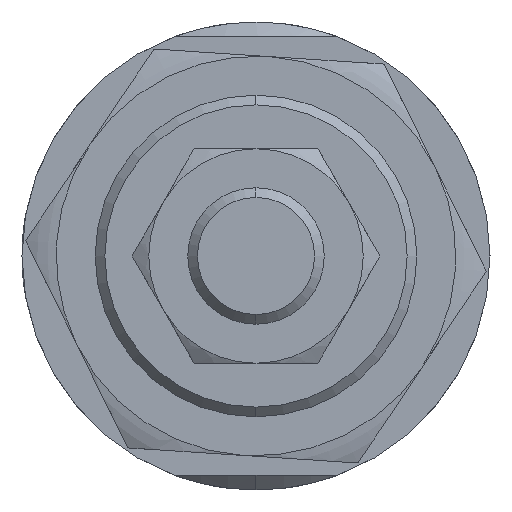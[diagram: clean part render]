
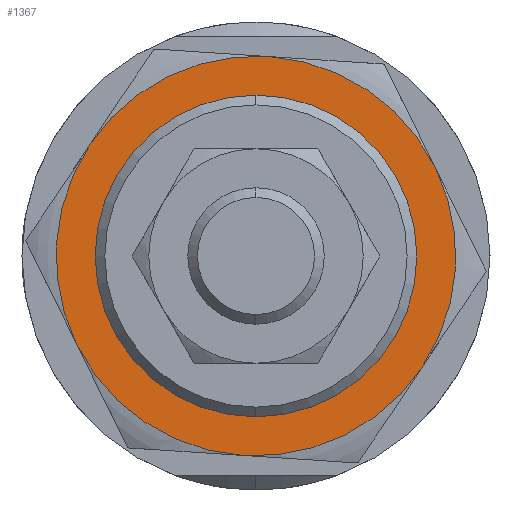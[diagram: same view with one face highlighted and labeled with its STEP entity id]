
A CAD part, left-side view. The second image highlights one B-rep face of the part: STEP entity #1367.
In plain terms, the highlighted planar face has unit normal (-1, 0, 0) as drawn and (0, 0, -1) by its records, which use the part's own axes.
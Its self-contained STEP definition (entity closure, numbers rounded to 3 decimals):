
#33 = DIRECTION ( 'NONE',  ( 1., 0., 0. ) ) ;
#50 = ORIENTED_EDGE ( 'NONE', *, *, #120, .F. ) ;
#102 = CARTESIAN_POINT ( 'NONE',  ( 10.25, -17.754, -5.5 ) ) ;
#120 = EDGE_CURVE ( 'NONE', #470, #3186, #2458, .T. ) ;
#123 = DIRECTION ( 'NONE',  ( 1., 0., 0. ) ) ;
#184 = ORIENTED_EDGE ( 'NONE', *, *, #2025, .F. ) ;
#196 = CARTESIAN_POINT ( 'NONE',  ( -10.25, -17.754, -5.5 ) ) ;
#205 = DIRECTION ( 'NONE',  ( 1., 0., 0. ) ) ;
#245 = CARTESIAN_POINT ( 'NONE',  ( 0., 0., -5.5 ) ) ;
#267 = DIRECTION ( 'NONE',  ( 0., 0., 1. ) ) ;
#316 = EDGE_CURVE ( 'NONE', #2252, #1985, #3172, .T. ) ;
#373 = EDGE_CURVE ( 'NONE', #970, #1316, #718, .T. ) ;
#378 = AXIS2_PLACEMENT_3D ( 'NONE', #2095, #1938, #123 ) ;
#390 = CARTESIAN_POINT ( 'NONE',  ( -15.5, 0., -5.5 ) ) ;
#467 = CARTESIAN_POINT ( 'NONE',  ( 20.5, 0., -5.5 ) ) ;
#470 = VERTEX_POINT ( 'NONE', #467 ) ;
#624 = ORIENTED_EDGE ( 'NONE', *, *, #373, .T. ) ;
#679 = EDGE_CURVE ( 'NONE', #2612, #1648, #2510, .T. ) ;
#718 = CIRCLE ( 'NONE', #1125, 15.5 ) ;
#749 = DIRECTION ( 'NONE',  ( 1., 0., 0. ) ) ;
#772 = CIRCLE ( 'NONE', #378, 20.5 ) ;
#780 = CIRCLE ( 'NONE', #1964, 15.5 ) ;
#789 = EDGE_CURVE ( 'NONE', #1985, #2612, #772, .T. ) ;
#967 = AXIS2_PLACEMENT_3D ( 'NONE', #1411, #2462, #1241 ) ;
#970 = VERTEX_POINT ( 'NONE', #2581 ) ;
#1072 = CARTESIAN_POINT ( 'NONE',  ( 0., 0., -5.5 ) ) ;
#1125 = AXIS2_PLACEMENT_3D ( 'NONE', #1072, #2579, #205 ) ;
#1171 = DIRECTION ( 'NONE',  ( 0., 0., 1. ) ) ;
#1241 = DIRECTION ( 'NONE',  ( 1., 0., 0. ) ) ;
#1270 = EDGE_LOOP ( 'NONE', ( #50, #2150, #2057, #1922, #1554, #184 ) ) ;
#1316 = VERTEX_POINT ( 'NONE', #390 ) ;
#1329 = AXIS2_PLACEMENT_3D ( 'NONE', #2272, #1171, #749 ) ;
#1352 = CIRCLE ( 'NONE', #1998, 20.5 ) ;
#1367 = ADVANCED_FACE ( 'NONE', ( #1668, #1992 ), #2397, .F. ) ;
#1411 = CARTESIAN_POINT ( 'NONE',  ( 0., 0., -5.5 ) ) ;
#1554 = ORIENTED_EDGE ( 'NONE', *, *, #316, .F. ) ;
#1648 = VERTEX_POINT ( 'NONE', #102 ) ;
#1668 = FACE_BOUND ( 'NONE', #2352, .T. ) ;
#1719 = DIRECTION ( 'NONE',  ( 1., 0., 0. ) ) ;
#1762 = CARTESIAN_POINT ( 'NONE',  ( -10.25, 17.754, -5.5 ) ) ;
#1914 = CARTESIAN_POINT ( 'NONE',  ( 0., 0., -5.5 ) ) ;
#1922 = ORIENTED_EDGE ( 'NONE', *, *, #789, .F. ) ;
#1938 = DIRECTION ( 'NONE',  ( 0., 0., 1. ) ) ;
#1964 = AXIS2_PLACEMENT_3D ( 'NONE', #1914, #267, #2473 ) ;
#1985 = VERTEX_POINT ( 'NONE', #3264 ) ;
#1992 = FACE_OUTER_BOUND ( 'NONE', #1270, .T. ) ;
#1998 = AXIS2_PLACEMENT_3D ( 'NONE', #245, #2901, #1719 ) ;
#2025 = EDGE_CURVE ( 'NONE', #3186, #2252, #1352, .T. ) ;
#2057 = ORIENTED_EDGE ( 'NONE', *, *, #679, .F. ) ;
#2095 = CARTESIAN_POINT ( 'NONE',  ( 0., 0., -5.5 ) ) ;
#2150 = ORIENTED_EDGE ( 'NONE', *, *, #2895, .F. ) ;
#2252 = VERTEX_POINT ( 'NONE', #1762 ) ;
#2272 = CARTESIAN_POINT ( 'NONE',  ( 0., 0., -5.5 ) ) ;
#2274 = CIRCLE ( 'NONE', #3199, 20.5 ) ;
#2352 = EDGE_LOOP ( 'NONE', ( #624, #2553 ) ) ;
#2397 = PLANE ( 'NONE',  #1329 ) ;
#2458 = CIRCLE ( 'NONE', #3308, 20.5 ) ;
#2462 = DIRECTION ( 'NONE',  ( 0., 0., 1. ) ) ;
#2473 = DIRECTION ( 'NONE',  ( 1., 0., 0. ) ) ;
#2510 = CIRCLE ( 'NONE', #3334, 20.5 ) ;
#2553 = ORIENTED_EDGE ( 'NONE', *, *, #3327, .T. ) ;
#2579 = DIRECTION ( 'NONE',  ( 0., 0., 1. ) ) ;
#2580 = CARTESIAN_POINT ( 'NONE',  ( 0., 0., -5.5 ) ) ;
#2581 = CARTESIAN_POINT ( 'NONE',  ( 15.5, 0., -5.5 ) ) ;
#2590 = CARTESIAN_POINT ( 'NONE',  ( 0., 0., -5.5 ) ) ;
#2612 = VERTEX_POINT ( 'NONE', #196 ) ;
#2866 = DIRECTION ( 'NONE',  ( 1., 0., 0. ) ) ;
#2889 = DIRECTION ( 'NONE',  ( 1., 0., 0. ) ) ;
#2895 = EDGE_CURVE ( 'NONE', #1648, #470, #2274, .T. ) ;
#2901 = DIRECTION ( 'NONE',  ( 0., 0., 1. ) ) ;
#2917 = CARTESIAN_POINT ( 'NONE',  ( 10.25, 17.754, -5.5 ) ) ;
#2944 = DIRECTION ( 'NONE',  ( 0., 0., 1. ) ) ;
#3172 = CIRCLE ( 'NONE', #967, 20.5 ) ;
#3186 = VERTEX_POINT ( 'NONE', #2917 ) ;
#3199 = AXIS2_PLACEMENT_3D ( 'NONE', #2580, #3378, #33 ) ;
#3264 = CARTESIAN_POINT ( 'NONE',  ( -20.5, 0., -5.5 ) ) ;
#3297 = CARTESIAN_POINT ( 'NONE',  ( 0., 0., -5.5 ) ) ;
#3308 = AXIS2_PLACEMENT_3D ( 'NONE', #3297, #2944, #2889 ) ;
#3327 = EDGE_CURVE ( 'NONE', #1316, #970, #780, .T. ) ;
#3333 = DIRECTION ( 'NONE',  ( 0., 0., 1. ) ) ;
#3334 = AXIS2_PLACEMENT_3D ( 'NONE', #2590, #3333, #2866 ) ;
#3378 = DIRECTION ( 'NONE',  ( 0., 0., 1. ) ) ;
